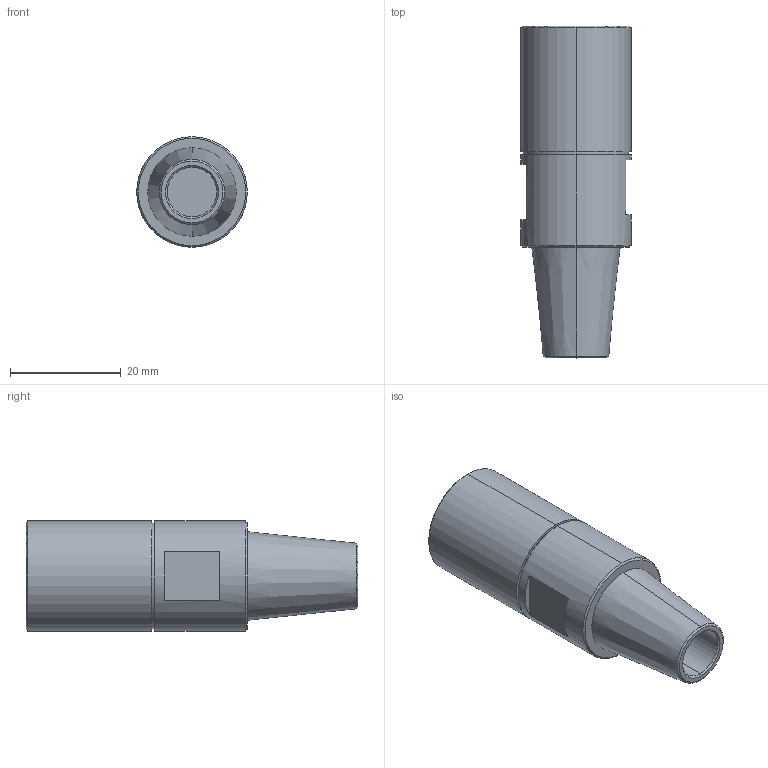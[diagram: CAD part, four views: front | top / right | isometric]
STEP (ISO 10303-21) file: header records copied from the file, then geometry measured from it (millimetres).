
FILE_DESCRIPTION (( 'STEP AP203' ), '1' );
FILE_NAME ('SW-PB-D8-3.STEP', '2022-06-15T02:16:36', ( '' ), ( '' ), 'SwSTEP 2.0', 'SolidWorks 2015', '' );
FILE_SCHEMA (( 'CONFIG_CONTROL_DESIGN' ));
Length unit declared in the file: millimetre
Products named in the file (2): SW-PB-D8-3
Bounding box: 20 x 60 x 20 mm (x, y, z)
Volume: 13128.3 mm3; surface area: 5018.1 mm2
Topology: 1 solids, 1 shells, 30 faces, 58 edges, 36 vertices
Faces by surface type: plane 12, cone 10, cylinder 8
Entity records: 1013 total; most frequent: CARTESIAN_POINT 226, DIRECTION 146, ORIENTED_EDGE 116, AXIS2_PLACEMENT_3D 60, EDGE_CURVE 58, EDGE_LOOP 36, VERTEX_POINT 36, FACE_OUTER_BOUND 30
